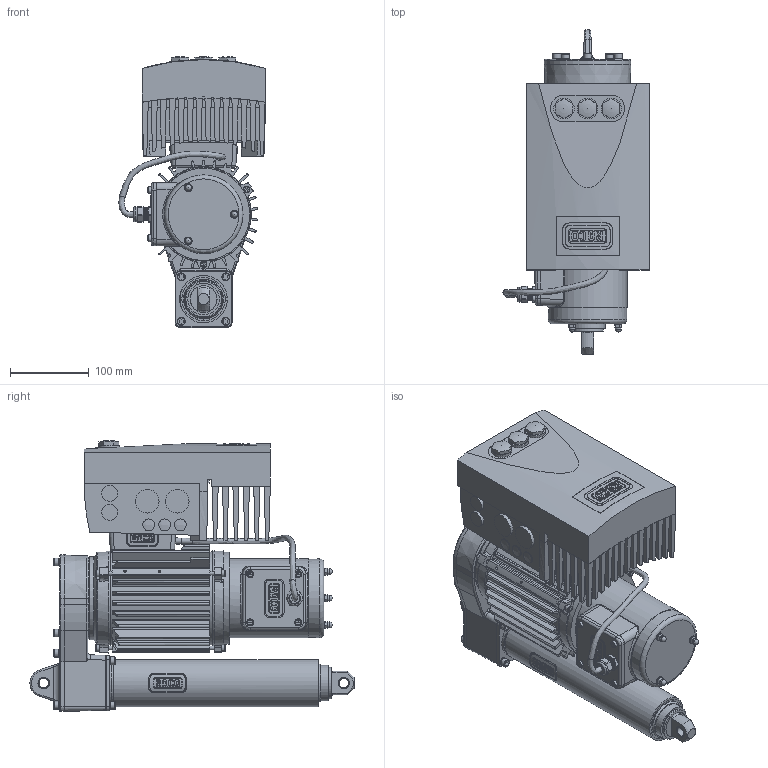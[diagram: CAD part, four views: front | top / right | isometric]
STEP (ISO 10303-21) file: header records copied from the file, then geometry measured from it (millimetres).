
FILE_DESCRIPTION(/* description */ ('Unknown'),/* implementation_level */ '2;1');
FILE_NAME(/* name */ 'T6C4-105-RM-0200-160-207-1',/* time_stamp */ '2025-07-21T10:11:46+02:00',/* author */ ('Unknown'),/* organization */ ('Unknown'),/* preprocessor_version */ 'ST-DEVELOPER v19.4',/* originating_system */ 'Solid Edge',/* authorisation */ 'Unknown');
FILE_SCHEMA (('AP242_MANAGED_MODEL_BASED_3D_ENGINEERING_MIM_LF { 1 0 10303 442 3 1 4 }','AUTOMOTIVE_DESIGN {1 0 10303 214 3 1 1}'));
Length unit declared in the file: millimetre
Products named in the file (12): 160-207-1; 12.00-C4-105; 02.14-C4-0200; 01.01-C4_kpl_Gabelauge; Adapter-FU-BG-1-2_alufarbig; Gehaeuse_A2_alufarbig; 71-B14_ohne; 01.15-C4-0200; FU-BG-1; Verschlußstopfen_M16; Verschlußstopfen_M25; 160-246-2_1
Assembly tree (14 placements, depth 2):
  160-207-1
    12.00-C4-105
    02.14-C4-0200
    01.01-C4_kpl_Gabelauge
    Adapter-FU-BG-1-2_alufarbig
    Gehaeuse_A2_alufarbig
    71-B14_ohne
    01.15-C4-0200
    FU-BG-1
    Verschlußstopfen_M16
    Verschlußstopfen_M25  x4
    160-246-2_1
Bounding box: 185.38 x 410.68 x 343.5 mm (x, y, z)
Volume: 8193411.8 mm3; surface area: 753461.1 mm2
Topology: 15 solids, 19 shells, 2413 faces, 5945 edges, 3834 vertices
Faces by surface type: plane 1502, cylinder 716, cone 108, torus 49, bspline 26, sphere 12
Full cylindrical faces by diameter (mm): 1 x24, 3 x2, 4 x4, 5 x6, 5.5 x1, 7 x1, 7.5 x3, 8.5 x6, 9.1 x3, 10 x13, 10.05 x10, 10.16 x1, 12 x2, 13.602 x1, 14 x4, 15 x6, 16.002 x1, 19.05 x1, 20 x5, 25 x4, 26 x3, 30 x4, 38.9 x1, 40 x1, 45 x2, 45.001 x1, 55.001 x1, 100 x1, 102 x1, 105 x1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
Entity records: 88014 total; most frequent: CARTESIAN_POINT 14843, DIRECTION 11705, ORIENTED_EDGE 11268, EDGE_CURVE 5634, AXIS2_PLACEMENT_3D 4154, VERTEX_POINT 3750, LINE 3397, VECTOR 3397
